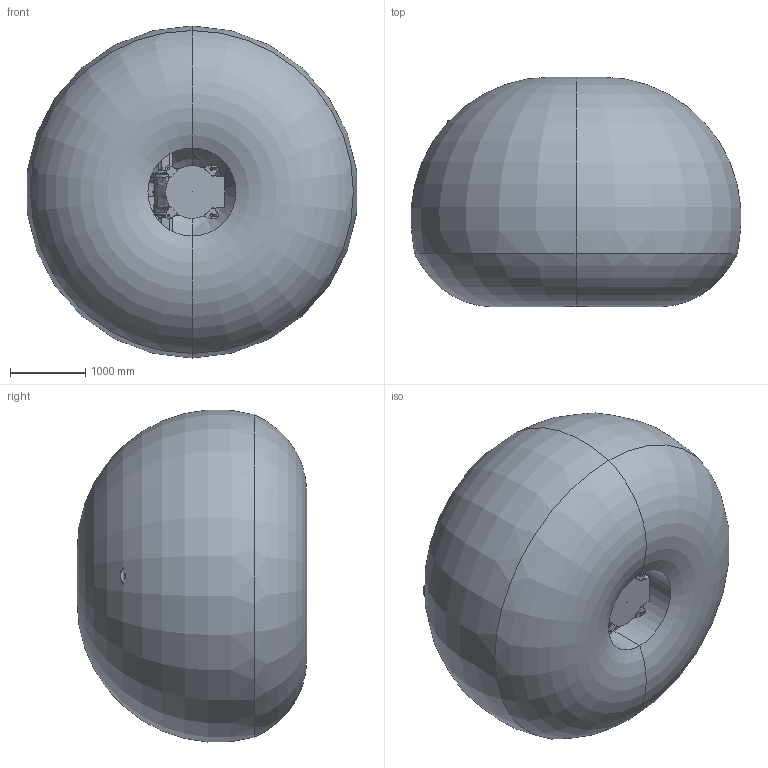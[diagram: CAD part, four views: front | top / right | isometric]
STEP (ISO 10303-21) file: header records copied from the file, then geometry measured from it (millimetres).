
FILE_DESCRIPTION (( 'STEP AP214' ), '1' );
FILE_NAME ('SMART-5 NJ4-175-2.2 (3D-STEP).STEP', '2010-11-29T10:58:42', ( '' ), ( '' ), 'SwSTEP 2.0', 'SolidWorks 2007', '' );
FILE_SCHEMA (( 'AUTOMOTIVE_DESIGN' ));
Length unit declared in the file: millimetre
Products named in the file (17): SMART-5 NJ4-175-2.2_p03; SMART-5 NJ4-175-2.2_p09; SMART-5 NJ4-175-2.2_p06; SMART-5 NJ4-175-2.2_p08; SMART-5 NJ4-175-2.2_p07; SMART-5 NJ4-175-2.2_p04; SMART-5 NJ4-175-2.2_p05; SMART-5 NJ4-175-2.2_CR82350070_SM; SMART-5 NJ4-175-2.2_CR82350041_SM; SMART-5 NJ4-175-2.2_CR82350080_SM; SMART-5 NJ4-175-2.2_CR82350060_SM; Operation area SMART-5 NJ4-175-2.2; SMART-5 NJ4-175-2.2_CR82350031_SM; SMART-5 NJ4-175-2.2_p10; SMART-5 NJ4-175-2.2_p02; SMART-5 NJ4-175-2.2_p01; SMART-5 NJ4-175-2.2 (3D-STEP)
Assembly tree (17 placements, depth 2):
  SMART-5 NJ4-175-2.2 (3D-STEP)
    Operation area SMART-5 NJ4-175-2.2
    SMART-5 NJ4-175-2.2_p09
    SMART-5 NJ4-175-2.2_p02
    SMART-5 NJ4-175-2.2_CR82350060_SM
    SMART-5 NJ4-175-2.2_p08
    SMART-5 NJ4-175-2.2_CR82350070_SM  x2
    SMART-5 NJ4-175-2.2_p06
    SMART-5 NJ4-175-2.2_p10
    SMART-5 NJ4-175-2.2_p01
    SMART-5 NJ4-175-2.2_p07
    SMART-5 NJ4-175-2.2_p03
    SMART-5 NJ4-175-2.2_CR82350031_SM
    SMART-5 NJ4-175-2.2_CR82350041_SM
    SMART-5 NJ4-175-2.2_CR82350080_SM
    SMART-5 NJ4-175-2.2_p05
    SMART-5 NJ4-175-2.2_p04
Bounding box: 4369.47 x 3045.16 x 4401.56 mm (x, y, z)
Volume: 31229354073.1 mm3; surface area: 75577391.8 mm2
Topology: 17 solids, 19 shells, 3601 faces, 9698 edges, 6292 vertices
Faces by surface type: plane 1579, cylinder 1372, bspline 344, cone 228, torus 78
Entity records: 160938 total; most frequent: CARTESIAN_POINT 67210, ORIENTED_EDGE 18582, DIRECTION 16508, EDGE_CURVE 9291, VERTEX_POINT 6110, AXIS2_PLACEMENT_3D 5932, LINE 4644, VECTOR 4644
